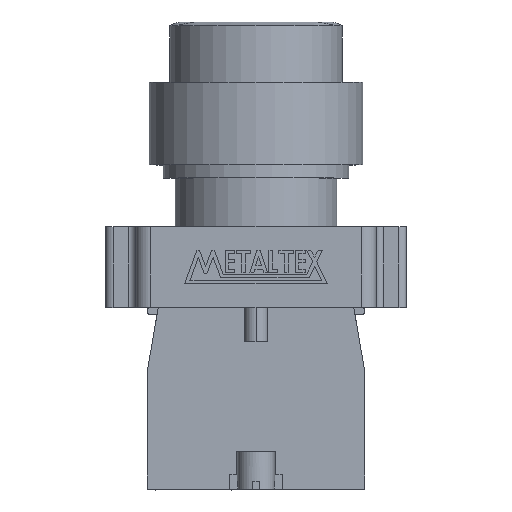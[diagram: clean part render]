
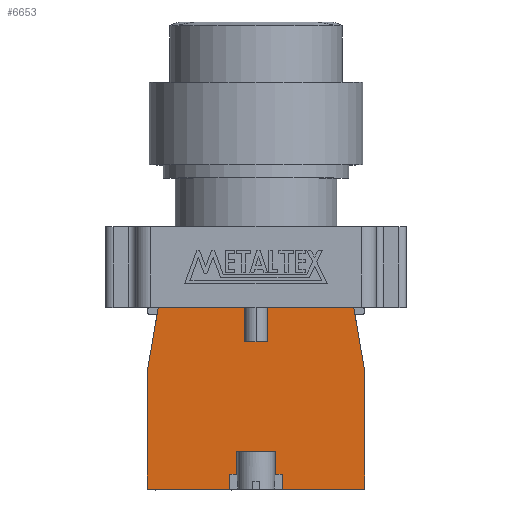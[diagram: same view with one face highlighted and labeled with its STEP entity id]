
A CAD part, top view. The second image highlights one B-rep face of the part: STEP entity #6653.
In plain terms, the highlighted planar face has unit normal (0, 0, 1).
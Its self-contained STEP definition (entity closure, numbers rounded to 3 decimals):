
#209 = PLANE ( 'NONE',  #7634 ) ;
#210 = CARTESIAN_POINT ( 'NONE',  ( 0., 0., 7.45 ) ) ;
#211 = DIRECTION ( 'NONE',  ( 0., 0., 1. ) ) ;
#212 = DIRECTION ( 'NONE',  ( 1., 0., 0. ) ) ;
#1407 = EDGE_LOOP ( 'NONE', ( #1707, #1705, #1708, #1706, #1704, #1703, #1701, #1702, #1700, #1699, #1697, #1698, #1696, #1694, #1695, #1693, #1692, #1690 ) ) ;
#1690 = ORIENTED_EDGE ( 'NONE', *, *, #7240, .T. ) ;
#1692 = ORIENTED_EDGE ( 'NONE', *, *, #7520, .F. ) ;
#1693 = ORIENTED_EDGE ( 'NONE', *, *, #7198, .T. ) ;
#1694 = ORIENTED_EDGE ( 'NONE', *, *, #7509, .T. ) ;
#1695 = ORIENTED_EDGE ( 'NONE', *, *, #7187, .T. ) ;
#1696 = ORIENTED_EDGE ( 'NONE', *, *, #7453, .T. ) ;
#1697 = ORIENTED_EDGE ( 'NONE', *, *, #7519, .T. ) ;
#1698 = ORIENTED_EDGE ( 'NONE', *, *, #7552, .F. ) ;
#1699 = ORIENTED_EDGE ( 'NONE', *, *, #7518, .F. ) ;
#1700 = ORIENTED_EDGE ( 'NONE', *, *, #7234, .F. ) ;
#1701 = ORIENTED_EDGE ( 'NONE', *, *, #7516, .T. ) ;
#1702 = ORIENTED_EDGE ( 'NONE', *, *, #7517, .T. ) ;
#1703 = ORIENTED_EDGE ( 'NONE', *, *, #7515, .T. ) ;
#1704 = ORIENTED_EDGE ( 'NONE', *, *, #7457, .T. ) ;
#1705 = ORIENTED_EDGE ( 'NONE', *, *, #7194, .T. ) ;
#1706 = ORIENTED_EDGE ( 'NONE', *, *, #7247, .T. ) ;
#1707 = ORIENTED_EDGE ( 'NONE', *, *, #7514, .T. ) ;
#1708 = ORIENTED_EDGE ( 'NONE', *, *, #7513, .T. ) ;
#2033 = VERTEX_POINT ( 'NONE', #3992 ) ;
#2187 = VERTEX_POINT ( 'NONE', #4147 ) ;
#2250 = VERTEX_POINT ( 'NONE', #4211 ) ;
#2312 = VERTEX_POINT ( 'NONE', #10758 ) ;
#2316 = VERTEX_POINT ( 'NONE', #10762 ) ;
#2322 = VERTEX_POINT ( 'NONE', #10768 ) ;
#2334 = VERTEX_POINT ( 'NONE', #10780 ) ;
#2348 = VERTEX_POINT ( 'NONE', #10793 ) ;
#2353 = VERTEX_POINT ( 'NONE', #10798 ) ;
#2355 = VERTEX_POINT ( 'NONE', #10800 ) ;
#2367 = VERTEX_POINT ( 'NONE', #10812 ) ;
#2463 = VERTEX_POINT ( 'NONE', #10908 ) ;
#2496 = VERTEX_POINT ( 'NONE', #10941 ) ;
#2498 = VERTEX_POINT ( 'NONE', #10943 ) ;
#2500 = VERTEX_POINT ( 'NONE', #10945 ) ;
#2502 = VERTEX_POINT ( 'NONE', #10947 ) ;
#2520 = VERTEX_POINT ( 'NONE', #10965 ) ;
#2559 = VERTEX_POINT ( 'NONE', #11004 ) ;
#3992 = CARTESIAN_POINT ( 'NONE',  ( -3.5, 2., 7.45 ) ) ;
#4147 = CARTESIAN_POINT ( 'NONE',  ( 2.6, 2., 7.45 ) ) ;
#4211 = CARTESIAN_POINT ( 'NONE',  ( -2.6, 5., 7.45 ) ) ;
#4801 = LINE ( 'NONE', #4802, #5396 ) ;
#4802 = CARTESIAN_POINT ( 'NONE',  ( -14.5, 0., 7.45 ) ) ;
#4803 = DIRECTION ( 'NONE',  ( 1., 0., 0. ) ) ;
#4813 = LINE ( 'NONE', #4814, #5400 ) ;
#4814 = CARTESIAN_POINT ( 'NONE',  ( -14.5, 0., 7.45 ) ) ;
#4815 = DIRECTION ( 'NONE',  ( 1., 0., 0. ) ) ;
#4969 = LINE ( 'NONE', #4970, #5455 ) ;
#4970 = CARTESIAN_POINT ( 'NONE',  ( 14.5, 0., 7.45 ) ) ;
#4971 = DIRECTION ( 'NONE',  ( 0., 1., 0. ) ) ;
#4981 = LINE ( 'NONE', #4982, #5459 ) ;
#4982 = CARTESIAN_POINT ( 'NONE',  ( -13., 24.2, 7.45 ) ) ;
#4983 = DIRECTION ( 'NONE',  ( -0.17, -0.985, 0. ) ) ;
#4984 = LINE ( 'NONE', #4985, #5460 ) ;
#4985 = CARTESIAN_POINT ( 'NONE',  ( -1.5, 19.6, 7.45 ) ) ;
#4986 = DIRECTION ( 'NONE',  ( 0., 1., 0. ) ) ;
#4987 = LINE ( 'NONE', #4988, #5461 ) ;
#4988 = CARTESIAN_POINT ( 'NONE',  ( -3.5, 0., 7.45 ) ) ;
#4989 = DIRECTION ( 'NONE',  ( 0., 1., 0. ) ) ;
#4990 = LINE ( 'NONE', #4991, #5462 ) ;
#4991 = CARTESIAN_POINT ( 'NONE',  ( 0., 2., 7.45 ) ) ;
#4992 = DIRECTION ( 'NONE',  ( 1., 0., 0. ) ) ;
#4993 = LINE ( 'NONE', #4994, #5463 ) ;
#4994 = CARTESIAN_POINT ( 'NONE',  ( -2.6, 0., 7.45 ) ) ;
#4995 = DIRECTION ( 'NONE',  ( 0., 1., 0. ) ) ;
#4996 = LINE ( 'NONE', #4997, #5464 ) ;
#4997 = CARTESIAN_POINT ( 'NONE',  ( 2.6, 0., 7.45 ) ) ;
#4998 = DIRECTION ( 'NONE',  ( 0., 1., 0. ) ) ;
#4999 = LINE ( 'NONE', #5000, #5465 ) ;
#5000 = CARTESIAN_POINT ( 'NONE',  ( 0., 2., 7.45 ) ) ;
#5001 = DIRECTION ( 'NONE',  ( 1., 0., 0. ) ) ;
#5002 = LINE ( 'NONE', #5003, #5467 ) ;
#5003 = CARTESIAN_POINT ( 'NONE',  ( 1.5, 19.6, 7.45 ) ) ;
#5004 = DIRECTION ( 'NONE',  ( 0., 1., 0. ) ) ;
#5127 = LINE ( 'NONE', #5128, #5528 ) ;
#5128 = CARTESIAN_POINT ( 'NONE',  ( 3.5, 0., 7.45 ) ) ;
#5129 = DIRECTION ( 'NONE',  ( 0., 1., 0. ) ) ;
#5396 = VECTOR ( 'NONE', #4803, 1000. ) ;
#5400 = VECTOR ( 'NONE', #4815, 1000. ) ;
#5455 = VECTOR ( 'NONE', #4971, 1000. ) ;
#5459 = VECTOR ( 'NONE', #4983, 1000. ) ;
#5460 = VECTOR ( 'NONE', #4986, 1000. ) ;
#5461 = VECTOR ( 'NONE', #4989, 1000. ) ;
#5462 = VECTOR ( 'NONE', #4992, 1000. ) ;
#5463 = VECTOR ( 'NONE', #4995, 1000. ) ;
#5464 = VECTOR ( 'NONE', #4998, 1000. ) ;
#5465 = VECTOR ( 'NONE', #5001, 1000. ) ;
#5467 = VECTOR ( 'NONE', #5004, 1000. ) ;
#5528 = VECTOR ( 'NONE', #5129, 1000. ) ;
#5684 = VECTOR ( 'NONE', #8342, 1000. ) ;
#5730 = VECTOR ( 'NONE', #10534, 1000. ) ;
#5781 = VECTOR ( 'NONE', #10567, 1000. ) ;
#5876 = VECTOR ( 'NONE', #10677, 1000. ) ;
#5901 = VECTOR ( 'NONE', #10695, 1000. ) ;
#5984 = VECTOR ( 'NONE', #10555, 1000. ) ;
#6653 = ADVANCED_FACE ( 'NONE', ( #7580 ), #209, .T. ) ;
#7187 = EDGE_CURVE ( 'NONE', #2496, #2498, #10532, .T. ) ;
#7194 = EDGE_CURVE ( 'NONE', #2500, #2502, #10553, .T. ) ;
#7198 = EDGE_CURVE ( 'NONE', #2498, #2367, #10565, .T. ) ;
#7234 = EDGE_CURVE ( 'NONE', #2463, #2250, #10675, .T. ) ;
#7240 = EDGE_CURVE ( 'NONE', #2520, #2334, #10693, .T. ) ;
#7247 = EDGE_CURVE ( 'NONE', #2355, #2353, #8340, .T. ) ;
#7453 = EDGE_CURVE ( 'NONE', #2348, #2312, #4801, .T. ) ;
#7457 = EDGE_CURVE ( 'NONE', #2353, #2316, #4813, .T. ) ;
#7509 = EDGE_CURVE ( 'NONE', #2312, #2496, #4969, .T. ) ;
#7513 = EDGE_CURVE ( 'NONE', #2502, #2355, #4981, .T. ) ;
#7514 = EDGE_CURVE ( 'NONE', #2334, #2500, #4984, .T. ) ;
#7515 = EDGE_CURVE ( 'NONE', #2316, #2033, #4987, .T. ) ;
#7516 = EDGE_CURVE ( 'NONE', #2033, #2559, #4990, .T. ) ;
#7517 = EDGE_CURVE ( 'NONE', #2559, #2250, #4993, .T. ) ;
#7518 = EDGE_CURVE ( 'NONE', #2187, #2463, #4996, .T. ) ;
#7519 = EDGE_CURVE ( 'NONE', #2187, #2322, #4999, .T. ) ;
#7520 = EDGE_CURVE ( 'NONE', #2520, #2367, #5002, .T. ) ;
#7552 = EDGE_CURVE ( 'NONE', #2348, #2322, #5127, .T. ) ;
#7580 = FACE_OUTER_BOUND ( 'NONE', #1407, .T. ) ;
#7634 = AXIS2_PLACEMENT_3D ( 'NONE', #210, #211, #212 ) ;
#8340 = LINE ( 'NONE', #8341, #5684 ) ;
#8341 = CARTESIAN_POINT ( 'NONE',  ( -14.5, 15.5, 7.45 ) ) ;
#8342 = DIRECTION ( 'NONE',  ( 0., -1., 0. ) ) ;
#10532 = LINE ( 'NONE', #10533, #5730 ) ;
#10533 = CARTESIAN_POINT ( 'NONE',  ( 14.5, 15.5, 7.45 ) ) ;
#10534 = DIRECTION ( 'NONE',  ( -0.17, 0.985, 0. ) ) ;
#10553 = LINE ( 'NONE', #10554, #5984 ) ;
#10554 = CARTESIAN_POINT ( 'NONE',  ( 13., 24.2, 7.45 ) ) ;
#10555 = DIRECTION ( 'NONE',  ( -1., 0., 0. ) ) ;
#10565 = LINE ( 'NONE', #10566, #5781 ) ;
#10566 = CARTESIAN_POINT ( 'NONE',  ( 13., 24.2, 7.45 ) ) ;
#10567 = DIRECTION ( 'NONE',  ( -1., 0., 0. ) ) ;
#10675 = LINE ( 'NONE', #10676, #5876 ) ;
#10676 = CARTESIAN_POINT ( 'NONE',  ( 0., 5., 7.45 ) ) ;
#10677 = DIRECTION ( 'NONE',  ( -1., 0., 0. ) ) ;
#10693 = LINE ( 'NONE', #10694, #5901 ) ;
#10694 = CARTESIAN_POINT ( 'NONE',  ( 0., 19.6, 7.45 ) ) ;
#10695 = DIRECTION ( 'NONE',  ( -1., 0., 0. ) ) ;
#10758 = CARTESIAN_POINT ( 'NONE',  ( 14.5, 0., 7.45 ) ) ;
#10762 = CARTESIAN_POINT ( 'NONE',  ( -3.5, 0., 7.45 ) ) ;
#10768 = CARTESIAN_POINT ( 'NONE',  ( 3.5, 2., 7.45 ) ) ;
#10780 = CARTESIAN_POINT ( 'NONE',  ( -1.5, 19.6, 7.45 ) ) ;
#10793 = CARTESIAN_POINT ( 'NONE',  ( 3.5, 0., 7.45 ) ) ;
#10798 = CARTESIAN_POINT ( 'NONE',  ( -14.5, 0., 7.45 ) ) ;
#10800 = CARTESIAN_POINT ( 'NONE',  ( -14.5, 15.5, 7.45 ) ) ;
#10812 = CARTESIAN_POINT ( 'NONE',  ( 1.5, 24.2, 7.45 ) ) ;
#10908 = CARTESIAN_POINT ( 'NONE',  ( 2.6, 5., 7.45 ) ) ;
#10941 = CARTESIAN_POINT ( 'NONE',  ( 14.5, 15.5, 7.45 ) ) ;
#10943 = CARTESIAN_POINT ( 'NONE',  ( 13., 24.2, 7.45 ) ) ;
#10945 = CARTESIAN_POINT ( 'NONE',  ( -1.5, 24.2, 7.45 ) ) ;
#10947 = CARTESIAN_POINT ( 'NONE',  ( -13., 24.2, 7.45 ) ) ;
#10965 = CARTESIAN_POINT ( 'NONE',  ( 1.5, 19.6, 7.45 ) ) ;
#11004 = CARTESIAN_POINT ( 'NONE',  ( -2.6, 2., 7.45 ) ) ;
